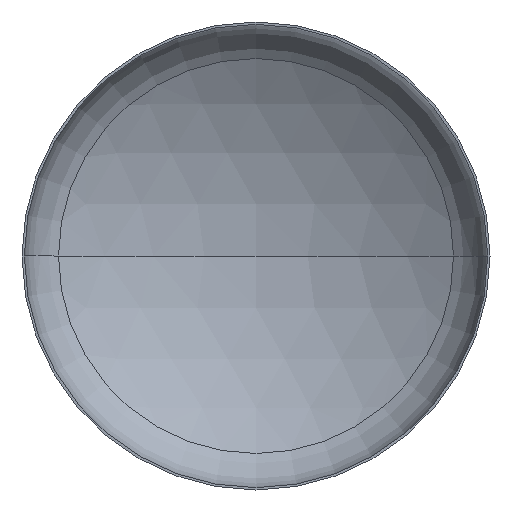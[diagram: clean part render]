
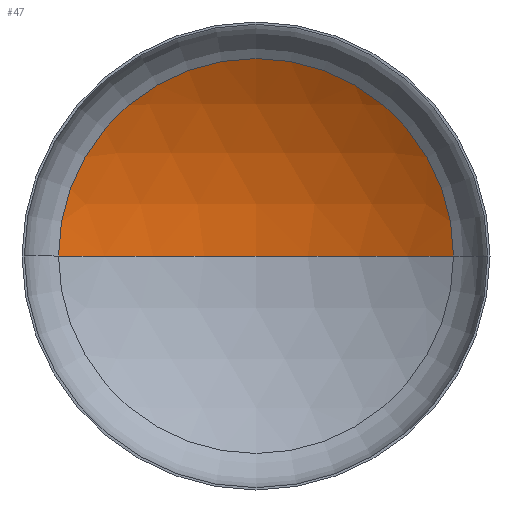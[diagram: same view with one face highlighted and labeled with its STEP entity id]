
A CAD part, front view. The second image highlights one B-rep face of the part: STEP entity #47.
In plain terms, the highlighted spherical face has radius 1760 mm.
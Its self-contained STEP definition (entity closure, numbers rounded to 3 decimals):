
#8 = DIRECTION ( 'NONE',  ( 1., 0., 0. ) ) ;
#10 = VERTEX_POINT ( 'NONE', #351 ) ;
#31 = VERTEX_POINT ( 'NONE', #248 ) ;
#36 = CIRCLE ( 'NONE', #94, 928.338 ) ;
#47 = ADVANCED_FACE ( 'NONE', ( #81 ), #379, .F. ) ;
#68 = VERTEX_POINT ( 'NONE', #227 ) ;
#74 = ORIENTED_EDGE ( 'NONE', *, *, #161, .T. ) ;
#79 = AXIS2_PLACEMENT_3D ( 'NONE', #181, #266, #8 ) ;
#81 = FACE_OUTER_BOUND ( 'NONE', #383, .T. ) ;
#92 = AXIS2_PLACEMENT_3D ( 'NONE', #186, #400, #270 ) ;
#94 = AXIS2_PLACEMENT_3D ( 'NONE', #207, #203, #206 ) ;
#106 = ORIENTED_EDGE ( 'NONE', *, *, #166, .F. ) ;
#126 = AXIS2_PLACEMENT_3D ( 'NONE', #259, #294, #243 ) ;
#158 = EDGE_CURVE ( 'NONE', #31, #10, #36, .T. ) ;
#161 = EDGE_CURVE ( 'NONE', #68, #31, #365, .T. ) ;
#165 = ORIENTED_EDGE ( 'NONE', *, *, #158, .T. ) ;
#166 = EDGE_CURVE ( 'NONE', #68, #10, #308, .T. ) ;
#181 = CARTESIAN_POINT ( 'NONE',  ( 0., -1166.399, 0. ) ) ;
#186 = CARTESIAN_POINT ( 'NONE',  ( 0., -1166.399, 0. ) ) ;
#203 = DIRECTION ( 'NONE',  ( 0., -1., 0. ) ) ;
#206 = DIRECTION ( 'NONE',  ( 1., 0., 0. ) ) ;
#207 = CARTESIAN_POINT ( 'NONE',  ( 0., 328.856, 0. ) ) ;
#227 = CARTESIAN_POINT ( 'NONE',  ( 0., 593.601, 0. ) ) ;
#243 = DIRECTION ( 'NONE',  ( -1., 0., 0. ) ) ;
#248 = CARTESIAN_POINT ( 'NONE',  ( 928.338, 328.856, 0. ) ) ;
#259 = CARTESIAN_POINT ( 'NONE',  ( 0., -1166.399, 0. ) ) ;
#266 = DIRECTION ( 'NONE',  ( 0., 0., 1. ) ) ;
#270 = DIRECTION ( 'NONE',  ( -1., 0., 0. ) ) ;
#294 = DIRECTION ( 'NONE',  ( 0., 0., -1. ) ) ;
#308 = CIRCLE ( 'NONE', #79, 1760. ) ;
#351 = CARTESIAN_POINT ( 'NONE',  ( -928.338, 328.856, 0. ) ) ;
#365 = CIRCLE ( 'NONE', #92, 1760. ) ;
#379 = SPHERICAL_SURFACE ( 'NONE', #126, 1760. ) ;
#383 = EDGE_LOOP ( 'NONE', ( #106, #74, #165 ) ) ;
#400 = DIRECTION ( 'NONE',  ( 0., 0., -1. ) ) ;
